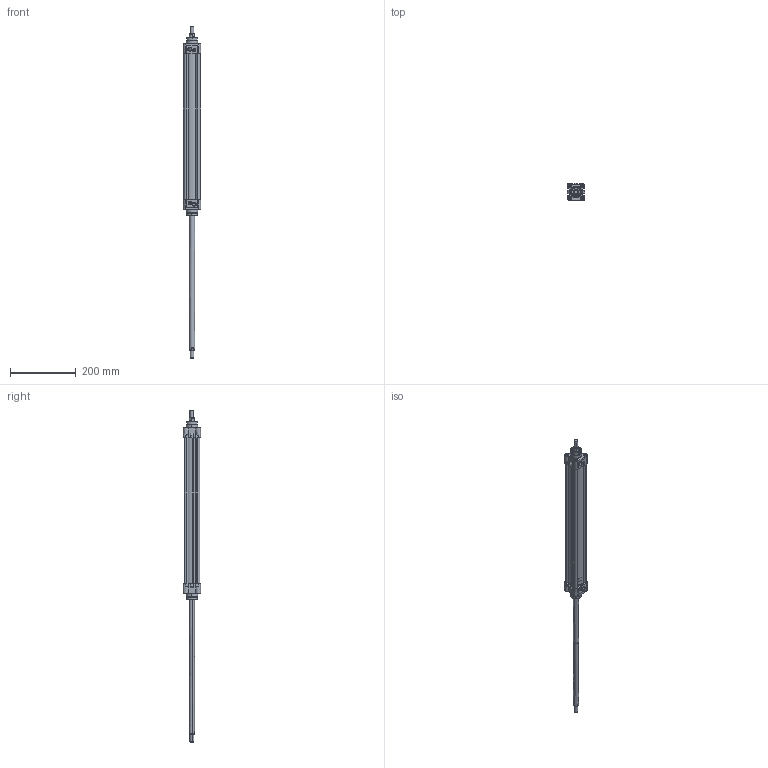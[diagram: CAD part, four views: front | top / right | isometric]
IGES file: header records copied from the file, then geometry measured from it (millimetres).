
Start section: SolidWorks IGES file using analytic representation for surfaces
Global section: file name: D:\ARICA 3D 禽Z軲LER\3D IGES\KDNT 禽FT M軱L輁KDNT40\KDNT40X400CIFTMILLI-CYLINDER.IGS; native system: SolidWorks 2013; preprocessor: SolidWorks 2013; author: user; date: 160324.095625; units: millimetre
Bounding box: 53 x 53.3 x 1013.1 mm (x, y, z)
Surface area: 305966 mm2 (no closed solid volume)
Topology: 0 solids, 0 shells, 718 faces, 11564 edges, 11548 vertices
Faces by surface type: revolution 438, bspline 280
